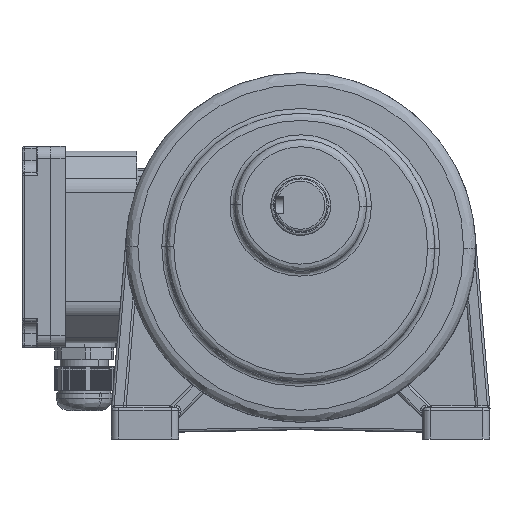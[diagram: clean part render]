
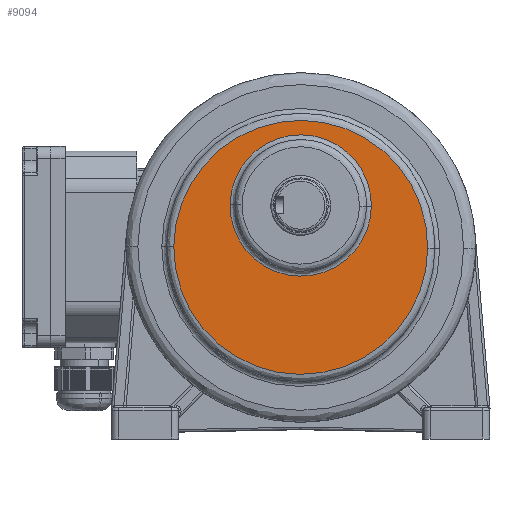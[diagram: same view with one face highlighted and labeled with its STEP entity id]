
A CAD part, top view. The second image highlights one B-rep face of the part: STEP entity #9094.
In plain terms, the highlighted planar face has unit normal (0, 0, 1) as drawn and (0, 1, 0) by its records, which use the part's own axes.
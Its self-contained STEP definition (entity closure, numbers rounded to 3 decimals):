
#4861 = AXIS2_PLACEMENT_3D ( 'NONE', #17209, #17211, #17213 ) ;
#6482 = EDGE_LOOP ( 'NONE', ( #74306, #74307 ) ) ;
#6485 = EDGE_LOOP ( 'NONE', ( #74304, #74305 ) ) ;
#9094 = ADVANCED_FACE ( 'NONE', ( #98638, #98643 ), #29236, .T. ) ;
#10232 = CIRCLE ( 'NONE', #4861, 53. ) ;
#10238 = CIRCLE ( 'NONE', #84730, 29.5 ) ;
#11063 = CIRCLE ( 'NONE', #31171, 29.5 ) ;
#11064 = CIRCLE ( 'NONE', #31180, 53. ) ;
#17209 = CARTESIAN_POINT ( 'NONE',  ( 0., 68., 0. ) ) ;
#17211 = DIRECTION ( 'NONE',  ( 0., 1., 0. ) ) ;
#17213 = DIRECTION ( 'NONE',  ( 1., 0., 0. ) ) ;
#17251 = CARTESIAN_POINT ( 'NONE',  ( 0., 68., -17.5 ) ) ;
#17253 = DIRECTION ( 'NONE',  ( 0., 1., 0. ) ) ;
#17255 = DIRECTION ( 'NONE',  ( -1., 0., 0. ) ) ;
#29236 = PLANE ( 'NONE',  #98613 ) ;
#29237 = CARTESIAN_POINT ( 'NONE',  ( 0., 68., 0. ) ) ;
#29238 = DIRECTION ( 'NONE',  ( 0., 1., 0. ) ) ;
#29239 = DIRECTION ( 'NONE',  ( 0., 0., 1. ) ) ;
#31171 = AXIS2_PLACEMENT_3D ( 'NONE', #52529, #52530, #52531 ) ;
#31180 = AXIS2_PLACEMENT_3D ( 'NONE', #52532, #52533, #52534 ) ;
#52529 = CARTESIAN_POINT ( 'NONE',  ( 0., 68., -17.5 ) ) ;
#52530 = DIRECTION ( 'NONE',  ( 0., 1., 0. ) ) ;
#52531 = DIRECTION ( 'NONE',  ( -1., 0., 0. ) ) ;
#52532 = CARTESIAN_POINT ( 'NONE',  ( 0., 68., 0. ) ) ;
#52533 = DIRECTION ( 'NONE',  ( 0., 1., 0. ) ) ;
#52534 = DIRECTION ( 'NONE',  ( 1., 0., 0. ) ) ;
#56619 = CARTESIAN_POINT ( 'NONE',  ( 52.999, 68., 0.348 ) ) ;
#56621 = CARTESIAN_POINT ( 'NONE',  ( -52.999, 68., -0.348 ) ) ;
#56689 = CARTESIAN_POINT ( 'NONE',  ( 29.497, 68., -17.106 ) ) ;
#56713 = CARTESIAN_POINT ( 'NONE',  ( -29.497, 68., -17.894 ) ) ;
#70039 = EDGE_CURVE ( 'NONE', #93503, #93501, #10232, .T. ) ;
#70046 = EDGE_CURVE ( 'NONE', #93738, #93660, #10238, .T. ) ;
#74304 = ORIENTED_EDGE ( 'NONE', *, *, #88463, .F. ) ;
#74305 = ORIENTED_EDGE ( 'NONE', *, *, #70046, .F. ) ;
#74306 = ORIENTED_EDGE ( 'NONE', *, *, #88464, .T. ) ;
#74307 = ORIENTED_EDGE ( 'NONE', *, *, #70039, .T. ) ;
#84730 = AXIS2_PLACEMENT_3D ( 'NONE', #17251, #17253, #17255 ) ;
#88463 = EDGE_CURVE ( 'NONE', #93660, #93738, #11063, .T. ) ;
#88464 = EDGE_CURVE ( 'NONE', #93501, #93503, #11064, .T. ) ;
#93501 = VERTEX_POINT ( 'NONE', #56619 ) ;
#93503 = VERTEX_POINT ( 'NONE', #56621 ) ;
#93660 = VERTEX_POINT ( 'NONE', #56689 ) ;
#93738 = VERTEX_POINT ( 'NONE', #56713 ) ;
#98613 = AXIS2_PLACEMENT_3D ( 'NONE', #29237, #29238, #29239 ) ;
#98638 = FACE_BOUND ( 'NONE', #6485, .T. ) ;
#98643 = FACE_OUTER_BOUND ( 'NONE', #6482, .T. ) ;
